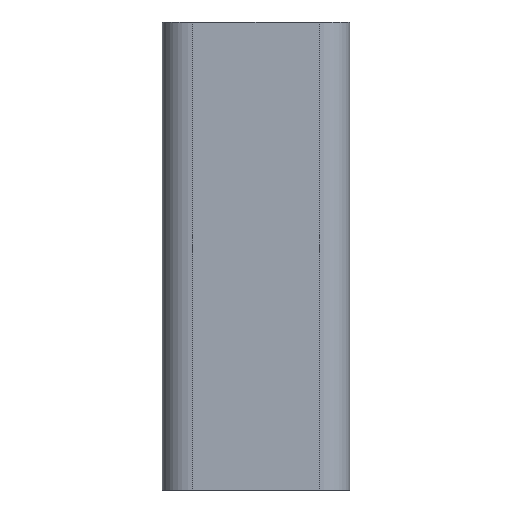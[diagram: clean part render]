
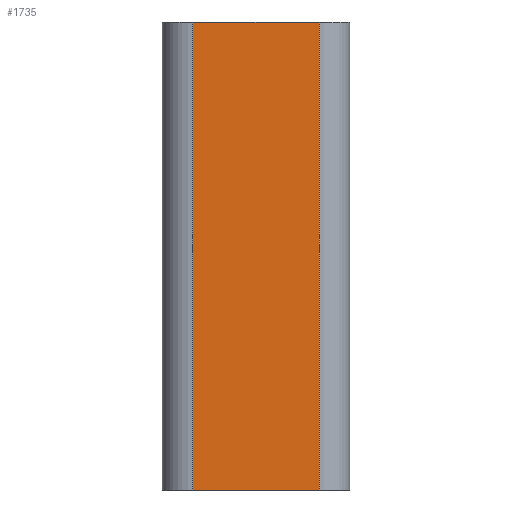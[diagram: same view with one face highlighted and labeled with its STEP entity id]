
A CAD part, front view. The second image highlights one B-rep face of the part: STEP entity #1735.
In plain terms, the highlighted planar face has unit normal (0, -1, 0).
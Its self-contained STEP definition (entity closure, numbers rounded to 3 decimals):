
#143=FACE_OUTER_BOUND('',#235,.T.);
#235=EDGE_LOOP('',(#1511,#1512,#1513,#1514));
#311=LINE('',#2484,#523);
#406=LINE('',#2720,#618);
#447=LINE('',#2812,#659);
#448=LINE('',#2814,#660);
#523=VECTOR('',#1983,27.);
#618=VECTOR('',#2180,27.);
#659=VECTOR('',#2281,100.);
#660=VECTOR('',#2284,100.);
#738=VERTEX_POINT('',#2481);
#739=VERTEX_POINT('',#2483);
#828=VERTEX_POINT('',#2717);
#829=VERTEX_POINT('',#2719);
#912=EDGE_CURVE('',#738,#739,#311,.T.);
#1032=EDGE_CURVE('',#829,#828,#406,.T.);
#1079=EDGE_CURVE('',#828,#739,#447,.T.);
#1080=EDGE_CURVE('',#829,#738,#448,.T.);
#1511=ORIENTED_EDGE('',*,*,#1032,.T.);
#1512=ORIENTED_EDGE('',*,*,#1079,.T.);
#1513=ORIENTED_EDGE('',*,*,#912,.F.);
#1514=ORIENTED_EDGE('',*,*,#1080,.F.);
#1652=PLANE('',#1863);
#1735=ADVANCED_FACE('',(#143),#1652,.T.);
#1863=AXIS2_PLACEMENT_3D('',#2813,#2282,#2283);
#1983=DIRECTION('',(1.,0.,0.));
#2180=DIRECTION('',(1.,0.,0.));
#2281=DIRECTION('',(0.,0.,1.));
#2282=DIRECTION('center_axis',(0.,-1.,0.));
#2283=DIRECTION('ref_axis',(1.,0.,0.));
#2284=DIRECTION('',(0.,0.,1.));
#2481=CARTESIAN_POINT('',(6.439,-0.061,100.));
#2483=CARTESIAN_POINT('',(33.439,-0.061,100.));
#2484=CARTESIAN_POINT('',(6.439,-0.061,100.));
#2717=CARTESIAN_POINT('',(33.439,-0.061,0.));
#2719=CARTESIAN_POINT('',(6.439,-0.061,0.));
#2720=CARTESIAN_POINT('',(6.439,-0.061,0.));
#2812=CARTESIAN_POINT('',(33.439,-0.061,0.));
#2813=CARTESIAN_POINT('Origin',(6.439,-0.061,0.));
#2814=CARTESIAN_POINT('',(6.439,-0.061,0.));
